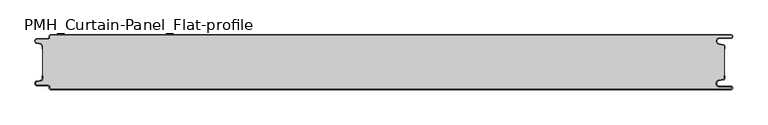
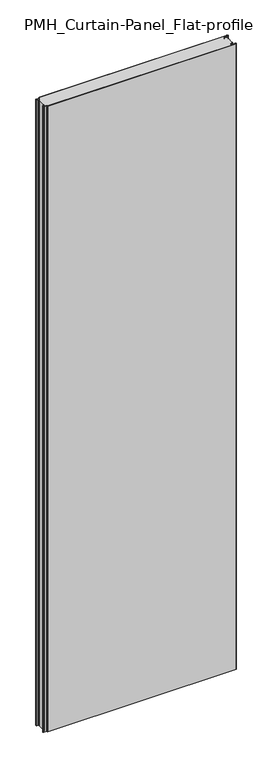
"""IFC4 building model written with IfcOpenShell, lengths in millimetres: plate geometry, PMH_Curtain-Panel_Flat-profile : ACH_PMH_Acoustic-Sectioning-Panel_80M."""

from ifc_helpers import new_model, si_unit, point, frame, frame_2d, origin, origin_with_axes, place, context, project, spatial, polyline, circle_curve, trimmed, segment, composite_curve, outline, extrude, source, transform, mapped, element, save
from ifc_brep_helpers import plane_surface, cylinder_surface, revolved_surface, advanced_brep


def pmh_curtain_panel_flat_profile_eaf717ca(model_context):
    return source(origin(), model_context, "Body", "SolidModel", [
        advanced_brep(
        [(508.1, 0.0, 3500.0), (510.6, 2.5000002, 3500.0), (508.1, 5.0, 3500.0), (491.1, 5.0, 3500.0), (490.405407, 12.939231, 3500.0), (496.8514855, 14.0758491, 3500.0), (499.0, 16.6363492, 3500.0), (499.0, 20.0, 3500.0), (498.2, 20.0, 3500.0), (498.2, 16.6363492, 3500.0), (496.7125669, 14.8636953, 3500.0), (490.2664884, 13.7270771, 3500.0), (491.1, 4.2, 3500.0), (508.1, 4.2, 3500.0), (508.1, 0.8, 3500.0), (-487.4, 0.8, 3500.0), (-488.6, 2.0, 3500.0), (-488.6, 3.4, 3500.0), (-491.4, 6.2, 3500.0), (-506.9, 6.2, 3500.0), (-507.529863, 11.7282362, 3500.0), (-501.370137, 13.150321, 3500.0), (-499.2, 15.878557, 3500.0), (-499.2, 20.0, 3500.0), (-500.0, 20.0, 3500.0), (-500.0, 15.878557, 3500.0), (-501.5500978, 13.9298169, 3500.0), (-507.7098239, 12.507732, 3500.0), (-506.9, 5.4, 3500.0), (-491.4, 5.4, 3500.0), (-489.4, 3.4, 3500.0), (-489.4, 2.0, 3500.0), (-487.4, 0.0, 3500.0), (-487.4, 0.0, 0.0), (-489.4, 2.0, 0.0), (-489.4, 3.4, 0.0), (-491.4, 5.4, 0.0), (-506.9, 5.4, 0.0), (-507.7098239, 12.5077322, 0.0), (-501.5500979, 13.929817, 0.0), (-500.0, 15.878557, 0.0), (-500.0, 20.0, 0.0), (-499.2, 20.0, 0.0), (-499.2, 15.878557, 0.0), (-501.370137, 13.1503208, 0.0), (-507.529863, 11.728236, 0.0), (-506.9, 6.2, 0.0), (-491.4, 6.2, 0.0), (-488.6, 3.4, 0.0), (-488.6, 2.0, 0.0), (-487.4, 0.8, 0.0), (508.1, 0.8, 0.0), (508.1, 4.2, 0.0), (491.1, 4.2, 0.0), (490.2664884, 13.7270771, 0.0), (496.7125669, 14.8636953, 0.0), (498.2, 16.6363492, 0.0), (498.2, 20.0, 0.0), (499.0, 20.0, 0.0), (499.0, 16.6363492, 0.0), (496.8514855, 14.0758491, 0.0), (490.405407, 12.939231, 0.0), (491.1, 5.0, 0.0), (508.1, 5.0, 0.0), (510.6, 2.4999998, 0.0), (508.1, 0.0, 0.0)],
        [
            (0, 1, circle_curve(frame((508.1, 2.5, 3500.0), z_axis=(0.0, 0.0, 1.0), x_axis=(1.0, 0.0, 0.0)), 2.5)),
            (1, 2, circle_curve(frame((508.1, 2.5, 3500.0), z_axis=(0.0, 0.0, 1.0), x_axis=(1.0, 0.0, 0.0)), 2.5)),
            (2, 3),
            (3, 4, circle_curve(frame((491.1, 9.0, 3500.0), z_axis=(0.0, 0.0, -1.0), x_axis=(1.0, 0.0, 0.0)), 4.0)),
            (4, 5),
            (5, 6, circle_curve(frame((496.4, 16.6363492, 3500.0), z_axis=(0.0, 0.0, 1.0), x_axis=(1.0, 0.0, 0.0)), 2.6)),
            (6, 7),
            (7, 8),
            (8, 9),
            (9, 10, circle_curve(frame((496.4, 16.6363492, 3500.0), z_axis=(0.0, 0.0, -1.0), x_axis=(1.0, 0.0, 0.0)), 1.8)),
            (10, 11),
            (11, 12, circle_curve(frame((491.1, 9.0, 3500.0), z_axis=(0.0, 0.0, 1.0), x_axis=(1.0, 0.0, 0.0)), 4.8)),
            (12, 13),
            (13, 14, circle_curve(frame((508.1, 2.5, 3500.0), z_axis=(0.0, 0.0, -1.0), x_axis=(1.0, 0.0, 0.0)), 1.7)),
            (14, 15),
            (15, 16, circle_curve(frame((-487.4, 2.0, 3500.0), z_axis=(0.0, 0.0, -1.0), x_axis=(1.0, 0.0, 0.0)), 1.2)),
            (16, 17),
            (17, 18, circle_curve(frame((-491.4, 3.4, 3500.0), z_axis=(0.0, 0.0, 1.0), x_axis=(1.0, 0.0, 0.0)), 2.8)),
            (18, 19),
            (19, 20, circle_curve(frame((-506.9, 9.0, 3500.0), z_axis=(0.0, 0.0, -1.0), x_axis=(1.0, 0.0, 0.0)), 2.8)),
            (20, 21),
            (21, 22, circle_curve(frame((-502.0, 15.878557, 3500.0), z_axis=(0.0, 0.0, 1.0), x_axis=(1.0, 0.0, 0.0)), 2.8)),
            (22, 23),
            (23, 24),
            (24, 25),
            (25, 26, circle_curve(frame((-502.0, 15.878557, 3500.0), z_axis=(0.0, 0.0, -1.0), x_axis=(1.0, 0.0, 0.0)), 2.0)),
            (26, 27),
            (27, 28, circle_curve(frame((-506.9, 9.0, 3500.0), z_axis=(0.0, 0.0, 1.0), x_axis=(1.0, 0.0, 0.0)), 3.6)),
            (28, 29),
            (29, 30, circle_curve(frame((-491.4, 3.4, 3500.0), z_axis=(0.0, 0.0, -1.0), x_axis=(1.0, 0.0, 0.0)), 2.0)),
            (30, 31),
            (31, 32, circle_curve(frame((-487.4, 2.0, 3500.0), z_axis=(0.0, 0.0, 1.0), x_axis=(1.0, 0.0, 0.0)), 2.0)),
            (32, 0),
            (33, 34, circle_curve(frame((-487.4, 2.0, 0.0), z_axis=(0.0, 0.0, -1.0), x_axis=(1.0, 0.0, 0.0)), 2.0)),
            (34, 35),
            (35, 36, circle_curve(frame((-491.4, 3.4, 0.0), z_axis=(0.0, 0.0, 1.0), x_axis=(1.0, 0.0, 0.0)), 2.0)),
            (36, 37),
            (37, 38, circle_curve(frame((-506.9, 9.0, 0.0), z_axis=(0.0, 0.0, -1.0), x_axis=(1.0, 0.0, 0.0)), 3.6)),
            (38, 39),
            (39, 40, circle_curve(frame((-502.0, 15.878557, 0.0), z_axis=(0.0, 0.0, 1.0), x_axis=(1.0, 0.0, 0.0)), 2.0)),
            (40, 41),
            (41, 42),
            (42, 43),
            (43, 44, circle_curve(frame((-502.0, 15.878557, 0.0), z_axis=(0.0, 0.0, -1.0), x_axis=(1.0, 0.0, 0.0)), 2.8)),
            (44, 45),
            (45, 46, circle_curve(frame((-506.9, 9.0, 0.0), z_axis=(0.0, 0.0, 1.0), x_axis=(1.0, 0.0, 0.0)), 2.8)),
            (46, 47),
            (47, 48, circle_curve(frame((-491.4, 3.4, 0.0), z_axis=(0.0, 0.0, -1.0), x_axis=(1.0, 0.0, 0.0)), 2.8)),
            (48, 49),
            (49, 50, circle_curve(frame((-487.4, 2.0, 0.0), z_axis=(0.0, 0.0, 1.0), x_axis=(1.0, 0.0, 0.0)), 1.2)),
            (50, 51),
            (51, 52, circle_curve(frame((508.1, 2.5, 0.0), z_axis=(0.0, 0.0, 1.0), x_axis=(1.0, 0.0, 0.0)), 1.7)),
            (52, 53),
            (53, 54, circle_curve(frame((491.1, 9.0, 0.0), z_axis=(0.0, 0.0, -1.0), x_axis=(1.0, 0.0, 0.0)), 4.8)),
            (54, 55),
            (55, 56, circle_curve(frame((496.4, 16.6363492, 0.0), z_axis=(0.0, 0.0, 1.0), x_axis=(1.0, 0.0, 0.0)), 1.8)),
            (56, 57),
            (57, 58),
            (58, 59),
            (59, 60, circle_curve(frame((496.4, 16.6363492, 0.0), z_axis=(0.0, 0.0, -1.0), x_axis=(1.0, 0.0, 0.0)), 2.6)),
            (60, 61),
            (61, 62, circle_curve(frame((491.1, 9.0, 0.0), z_axis=(0.0, 0.0, 1.0), x_axis=(1.0, 0.0, 0.0)), 4.0)),
            (62, 63),
            (63, 64, circle_curve(frame((508.1, 2.5, 0.0), z_axis=(0.0, 0.0, -1.0), x_axis=(1.0, 0.0, 0.0)), 2.5)),
            (64, 65, circle_curve(frame((508.1, 2.5, 0.0), z_axis=(0.0, 0.0, -1.0), x_axis=(1.0, 0.0, 0.0)), 2.5)),
            (65, 33),
            (31, 34),
            (33, 32),
            (30, 35),
            (29, 36),
            (28, 37),
            (27, 38),
            (26, 39),
            (25, 40),
            (24, 41),
            (23, 42),
            (22, 43),
            (21, 44),
            (20, 45),
            (19, 46),
            (18, 47),
            (17, 48),
            (16, 49),
            (15, 50),
            (14, 51),
            (13, 52),
            (12, 53),
            (11, 54),
            (10, 55),
            (9, 56),
            (8, 57),
            (7, 58),
            (6, 59),
            (5, 60),
            (4, 61),
            (3, 62),
            (2, 63),
            (0, 65),
        ],
        [
            plane_surface(frame((-500.0, 0.0, 3500.0), z_axis=(0.0, 0.0, 1.0), x_axis=(0.0, -1.0, 0.0))),
            plane_surface(frame((-500.0, 0.0, 0.0), z_axis=(0.0, 0.0, -1.0), x_axis=(0.0, -1.0, 0.0))),
            cylinder_surface(frame((-487.4, 2.0, 3500.0), z_axis=(0.0, 0.0, 1.0), x_axis=(1.0, 0.0, 0.0)), 2.0),
            plane_surface(frame((-489.4, 2.0, 3500.0), z_axis=(-1.0, 0.0, 0.0), x_axis=(0.0, 0.0, -1.0))),
            revolved_surface(polyline([(-489.4, 3.4, 0.0), (-489.4, 3.4, 3500.0)]), (-491.4, 3.4, 3500.0), (0.0, 0.0, -1.0)),
            plane_surface(frame((-491.4, 5.4, 3500.0), z_axis=(0.0, -1.0, 0.0), x_axis=(0.0, 0.0, -1.0))),
            cylinder_surface(frame((-506.9, 9.0, 3500.0), z_axis=(0.0, 0.0, 1.0), x_axis=(1.0, 0.0, 0.0)), 3.6),
            plane_surface(frame((-507.7098239, 12.507732, 3500.0), z_axis=(-0.2249510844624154, 0.9743700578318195, 0.0), x_axis=(0.0, 0.0, -1.0))),
            revolved_surface(polyline([(-500.0, 15.878557, 0.0), (-500.0, 15.878557, 3500.0)]), (-502.0, 15.878557, 3500.0), (0.0, 0.0, -1.0)),
            plane_surface(frame((-500.0, 15.878557, 3500.0), z_axis=(-1.0, 0.0, 0.0), x_axis=(0.0, 0.0, -1.0))),
            plane_surface(frame((-500.0, 20.0, 3500.0), z_axis=(0.0, 1.0, 0.0), x_axis=(0.0, 0.0, -1.0))),
            plane_surface(frame((-499.2, 20.0, 3500.0), z_axis=(1.0, 0.0, 0.0), x_axis=(0.0, 0.0, -1.0))),
            cylinder_surface(frame((-502.0, 15.878557, 3500.0), z_axis=(0.0, 0.0, 1.0), x_axis=(1.0, 0.0, 0.0)), 2.8),
            plane_surface(frame((-501.370137, 13.150321, 3500.0), z_axis=(0.22495108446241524, -0.9743700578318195, 0.0), x_axis=(0.0, 0.0, -1.0))),
            revolved_surface(polyline([(-504.09999999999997, 9.0, 0.0), (-504.09999999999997, 9.0, 3500.0)]), (-506.9, 9.0, 3500.0), (0.0, 0.0, -1.0)),
            plane_surface(frame((-506.9, 6.2, 3500.0), z_axis=(0.0, 1.0, 0.0), x_axis=(0.0, 0.0, -1.0))),
            cylinder_surface(frame((-491.4, 3.4, 3500.0), z_axis=(0.0, 0.0, 1.0), x_axis=(1.0, 0.0, 0.0)), 2.8),
            plane_surface(frame((-488.6, 3.4, 3500.0), z_axis=(1.0, 0.0, 0.0), x_axis=(0.0, 0.0, -1.0))),
            revolved_surface(polyline([(-486.2, 2.0, 0.0), (-486.2, 2.0, 3500.0)]), (-487.4, 2.0, 3500.0), (0.0, 0.0, -1.0)),
            plane_surface(frame((-487.4, 0.8, 3500.0), z_axis=(0.0, 1.0, 0.0), x_axis=(0.0, 0.0, -1.0))),
            revolved_surface(polyline([(509.8, 2.5, 0.0), (509.8, 2.5, 3500.0)]), (508.1, 2.5, 3500.0), (0.0, 0.0, -1.0)),
            plane_surface(frame((508.1, 4.2, 3500.0), z_axis=(0.0, -1.0, 0.0), x_axis=(0.0, 0.0, -1.0))),
            cylinder_surface(frame((491.1, 9.0, 3500.0), z_axis=(0.0, 0.0, 1.0), x_axis=(1.0, 0.0, 0.0)), 4.8),
            plane_surface(frame((490.2664884, 13.7270771, 3500.0), z_axis=(-0.17364826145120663, 0.984807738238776, 0.0), x_axis=(0.0, 0.0, -1.0))),
            revolved_surface(polyline([(498.2, 16.6363492, 0.0), (498.2, 16.6363492, 3500.0)]), (496.4, 16.6363492, 3500.0), (0.0, 0.0, -1.0)),
            plane_surface(frame((498.2, 16.6363492, 3500.0), z_axis=(-1.0, 0.0, 0.0), x_axis=(0.0, 0.0, -1.0))),
            plane_surface(frame((498.2, 20.0, 3500.0), z_axis=(0.0, 1.0, 0.0), x_axis=(0.0, 0.0, -1.0))),
            plane_surface(frame((499.0, 20.0, 3500.0), z_axis=(1.0, 0.0, 0.0), x_axis=(0.0, 0.0, -1.0))),
            cylinder_surface(frame((496.4, 16.6363492, 3500.0), z_axis=(0.0, 0.0, 1.0), x_axis=(1.0, 0.0, 0.0)), 2.6),
            plane_surface(frame((496.8514855, 14.0758491, 3500.0), z_axis=(0.17364826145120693, -0.9848077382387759, 0.0), x_axis=(0.0, 0.0, -1.0))),
            revolved_surface(polyline([(495.1, 9.0, 0.0), (495.1, 9.0, 3500.0)]), (491.1, 9.0, 3500.0), (0.0, 0.0, -1.0)),
            plane_surface(frame((491.1, 5.0, 3500.0), z_axis=(0.0, 1.0, 0.0), x_axis=(0.0, 0.0, -1.0))),
            cylinder_surface(frame((508.1, 2.5, 3500.0), z_axis=(0.0, 0.0, 1.0), x_axis=(1.0, 0.0, 0.0)), 2.5),
            plane_surface(frame((490.5783588, 0.0, 3500.0), z_axis=(0.0, -1.0, 0.0), x_axis=(0.0, 0.0, -1.0))),
        ],
        [
            (0, [[1, 2, 3, 4, 5, 6, 7, 8, 9, 10, 11, 12, 13, 14, 15, 16, 17, 18, 19, 20, 21, 22, 23, 24, 25, 26, 27, 28, 29, 30, 31, 32, 33]]),
            (1, [[34, 35, 36, 37, 38, 39, 40, 41, 42, 43, 44, 45, 46, 47, 48, 49, 50, 51, 52, 53, 54, 55, 56, 57, 58, 59, 60, 61, 62, 63, 64, 65, 66]]),
            (2, [[67, -34, 68, -32]]),
            (3, [[69, -35, -67, -31]]),
            (4, [[70, -36, -69, -30]]),
            (5, [[71, -37, -70, -29]]),
            (6, [[72, -38, -71, -28]]),
            (7, [[73, -39, -72, -27]]),
            (8, [[74, -40, -73, -26]]),
            (9, [[75, -41, -74, -25]]),
            (10, [[76, -42, -75, -24]]),
            (11, [[77, -43, -76, -23]]),
            (12, [[78, -44, -77, -22]]),
            (13, [[79, -45, -78, -21]]),
            (14, [[80, -46, -79, -20]]),
            (15, [[81, -47, -80, -19]]),
            (16, [[82, -48, -81, -18]]),
            (17, [[83, -49, -82, -17]]),
            (18, [[84, -50, -83, -16]]),
            (19, [[85, -51, -84, -15]]),
            (20, [[86, -52, -85, -14]]),
            (21, [[87, -53, -86, -13]]),
            (22, [[88, -54, -87, -12]]),
            (23, [[89, -55, -88, -11]]),
            (24, [[90, -56, -89, -10]]),
            (25, [[91, -57, -90, -9]]),
            (26, [[92, -58, -91, -8]]),
            (27, [[93, -59, -92, -7]]),
            (28, [[94, -60, -93, -6]]),
            (29, [[95, -61, -94, -5]]),
            (30, [[96, -62, -95, -4]]),
            (31, [[97, -63, -96, -3]]),
            (32, [[-2, -1, 98, -65, -64, -97]]),
            (33, [[-68, -66, -98, -33]]),
        ],
    ),
        extrude(outline(composite_curve([segment(trimmed(circle_curve(frame_2d((-502.0, 64.1214426)), 2.8), [point((-499.2, 64.1214426))], [point((-501.370137, 66.8496788))], True, "CARTESIAN"), True, "CONTINUOUS"), segment(polyline([(-501.370137, 66.8496788), (-507.5298631, 68.2717638)]), True, "CONTINUOUS"), segment(trimmed(circle_curve(frame_2d((-506.9, 71.0)), 2.8), [point((-507.5298631, 68.2717638))], [point((-506.9, 73.8))], False, "CARTESIAN"), True, "CONTINUOUS"), segment(polyline([(-506.9, 73.8), (-491.4000001, 73.8)]), True, "CONTINUOUS"), segment(trimmed(circle_curve(frame_2d((-491.4000001, 76.6)), 2.8), [point((-491.4000001, 73.8))], [point((-488.6000001, 76.6))], True, "CARTESIAN"), True, "CONTINUOUS"), segment(polyline([(-488.6000001, 76.6), (-488.6000001, 78.0)]), True, "CONTINUOUS"), segment(trimmed(circle_curve(frame_2d((-487.4000001, 78.0)), 1.2), [point((-488.6000001, 78.0))], [point((-487.4000001, 79.2))], False, "CARTESIAN"), True, "CONTINUOUS"), segment(polyline([(-487.4000001, 79.2), (508.1, 79.2)]), True, "CONTINUOUS"), segment(trimmed(circle_curve(frame_2d((508.1, 77.5)), 1.7), [point((508.1, 79.2))], [point((508.1, 75.8))], False, "CARTESIAN"), True, "CONTINUOUS"), segment(polyline([(508.1, 75.8), (491.1, 75.8)]), True, "CONTINUOUS"), segment(trimmed(circle_curve(frame_2d((491.1, 71.0)), 4.8), [point((491.1, 75.8))], [point((490.2664883, 66.2729229))], True, "CARTESIAN"), True, "CONTINUOUS"), segment(polyline([(490.2664883, 66.2729229), (496.7125668, 65.1363047)]), True, "CONTINUOUS"), segment(trimmed(circle_curve(frame_2d((496.4, 63.3636508)), 1.8), [point((496.7125668, 65.1363047))], [point((498.2, 63.3636508))], False, "CARTESIAN"), True, "CONTINUOUS"), segment(polyline([(498.2, 63.3636508), (498.2, 16.6363492)]), True, "CONTINUOUS"), segment(trimmed(circle_curve(frame_2d((496.4, 16.6363492)), 1.8), [point((498.2, 16.6363492))], [point((496.7125668, 14.8636953))], False, "CARTESIAN"), True, "CONTINUOUS"), segment(polyline([(496.7125668, 14.8636953), (490.2664883, 13.7270771)]), True, "CONTINUOUS"), segment(trimmed(circle_curve(frame_2d((491.1, 9.0)), 4.8), [point((490.2664883, 13.7270771))], [point((491.1, 4.2))], True, "CARTESIAN"), True, "CONTINUOUS"), segment(polyline([(491.1, 4.2), (508.1, 4.2)]), True, "CONTINUOUS"), segment(trimmed(circle_curve(frame_2d((508.1, 2.5)), 1.7), [point((508.1, 4.2))], [point((508.1, 0.8))], False, "CARTESIAN"), True, "CONTINUOUS"), segment(polyline([(508.1, 0.8), (-487.4000001, 0.8)]), True, "CONTINUOUS"), segment(trimmed(circle_curve(frame_2d((-487.4000001, 2.0)), 1.2), [point((-487.4000001, 0.8))], [point((-488.6000001, 2.0))], False, "CARTESIAN"), True, "CONTINUOUS"), segment(polyline([(-488.6000001, 2.0), (-488.6000001, 3.4)]), True, "CONTINUOUS"), segment(trimmed(circle_curve(frame_2d((-491.4000001, 3.4)), 2.8), [point((-488.6000001, 3.4))], [point((-491.4000001, 6.2))], True, "CARTESIAN"), True, "CONTINUOUS"), segment(polyline([(-491.4000001, 6.2), (-506.9, 6.2)]), True, "CONTINUOUS"), segment(trimmed(circle_curve(frame_2d((-506.9, 9.0)), 2.8), [point((-506.9, 6.2))], [point((-507.5298631, 11.7282362))], False, "CARTESIAN"), True, "CONTINUOUS"), segment(polyline([(-507.5298631, 11.7282362), (-501.370137, 13.1503212)]), True, "CONTINUOUS"), segment(trimmed(circle_curve(frame_2d((-502.0, 15.8785573)), 2.8), [point((-501.370137, 13.1503212))], [point((-499.2, 15.8785573))], True, "CARTESIAN"), True, "CONTINUOUS"), segment(polyline([(-499.2, 15.8785573), (-499.2, 64.1214426)]), True, "CONTINUOUS")], self_intersect=False)), origin_with_axes(), (0.0, 0.0, 1.0), 3500.0),
        advanced_brep(
        [(-487.4, 80.0, 3500.0), (-489.4, 78.0, 3500.0), (-489.4, 76.6, 3500.0), (-491.4, 74.6, 3500.0), (-506.9, 74.6, 3500.0), (-507.7098239, 67.4922678, 3500.0), (-501.5500979, 66.070183, 3500.0), (-500.0, 64.121443, 3500.0), (-500.0, 60.0, 3500.0), (-499.2, 60.0, 3500.0), (-499.2, 64.121443, 3500.0), (-501.370137, 66.8496792, 3500.0), (-507.529863, 68.271764, 3500.0), (-506.9, 73.8, 3500.0), (-491.4, 73.8, 3500.0), (-488.6, 76.6, 3500.0), (-488.6, 78.0, 3500.0), (-487.4, 79.2, 3500.0), (508.1, 79.2, 3500.0), (508.1, 75.8, 3500.0), (491.1, 75.8, 3500.0), (490.2664884, 66.2729229, 3500.0), (496.7125669, 65.1363047, 3500.0), (498.2, 63.3636508, 3500.0), (498.2, 60.0, 3500.0), (499.0, 60.0, 3500.0), (499.0, 63.3636508, 3500.0), (496.8514855, 65.9241509, 3500.0), (490.405407, 67.060769, 3500.0), (491.1, 75.0, 3500.0), (508.1, 75.0, 3500.0), (510.6, 77.5000002, 3500.0), (508.1, 80.0, 3500.0), (508.1, 80.0, 0.0), (510.6, 77.4999998, 0.0), (508.1, 75.0, 0.0), (491.1, 75.0, 0.0), (490.405407, 67.060769, 0.0), (496.8514855, 65.9241509, 0.0), (499.0, 63.3636508, 0.0), (499.0, 60.0, 0.0), (498.2, 60.0, 0.0), (498.2, 63.3636508, 0.0), (496.7125669, 65.1363047, 0.0), (490.2664884, 66.2729229, 0.0), (491.1, 75.8, 0.0), (508.1, 75.8, 0.0), (508.1, 79.2, 0.0), (-487.4, 79.2, 0.0), (-488.6, 78.0, 0.0), (-488.6, 76.6, 0.0), (-491.4, 73.8, 0.0), (-506.9, 73.8, 0.0), (-507.529863, 68.2717638, 0.0), (-501.370137, 66.849679, 0.0), (-499.2, 64.121443, 0.0), (-499.2, 60.0, 0.0), (-500.0, 60.0, 0.0), (-500.0, 64.121443, 0.0), (-501.5500978, 66.0701831, 0.0), (-507.7098239, 67.492268, 0.0), (-506.9, 74.6, 0.0), (-491.4, 74.6, 0.0), (-489.4, 76.6, 0.0), (-489.4, 78.0, 0.0), (-487.4, 80.0, 0.0)],
        [
            (0, 1, circle_curve(frame((-487.4, 78.0, 3500.0), z_axis=(0.0, 0.0, 1.0), x_axis=(1.0, 0.0, 0.0)), 2.0)),
            (1, 2),
            (2, 3, circle_curve(frame((-491.4, 76.6, 3500.0), z_axis=(0.0, 0.0, -1.0), x_axis=(1.0, 0.0, 0.0)), 2.0)),
            (3, 4),
            (4, 5, circle_curve(frame((-506.9, 71.0, 3500.0), z_axis=(0.0, 0.0, 1.0), x_axis=(1.0, 0.0, 0.0)), 3.6)),
            (5, 6),
            (6, 7, circle_curve(frame((-502.0, 64.121443, 3500.0), z_axis=(0.0, 0.0, -1.0), x_axis=(1.0, 0.0, 0.0)), 2.0)),
            (7, 8),
            (8, 9),
            (9, 10),
            (10, 11, circle_curve(frame((-502.0, 64.121443, 3500.0), z_axis=(0.0, 0.0, 1.0), x_axis=(1.0, 0.0, 0.0)), 2.8)),
            (11, 12),
            (12, 13, circle_curve(frame((-506.9, 71.0, 3500.0), z_axis=(0.0, 0.0, -1.0), x_axis=(1.0, 0.0, 0.0)), 2.8)),
            (13, 14),
            (14, 15, circle_curve(frame((-491.4, 76.6, 3500.0), z_axis=(0.0, 0.0, 1.0), x_axis=(1.0, 0.0, 0.0)), 2.8)),
            (15, 16),
            (16, 17, circle_curve(frame((-487.4, 78.0, 3500.0), z_axis=(0.0, 0.0, -1.0), x_axis=(1.0, 0.0, 0.0)), 1.2)),
            (17, 18),
            (18, 19, circle_curve(frame((508.1, 77.5, 3500.0), z_axis=(0.0, 0.0, -1.0), x_axis=(1.0, 0.0, 0.0)), 1.7)),
            (19, 20),
            (20, 21, circle_curve(frame((491.1, 71.0, 3500.0), z_axis=(0.0, 0.0, 1.0), x_axis=(1.0, 0.0, 0.0)), 4.8)),
            (21, 22),
            (22, 23, circle_curve(frame((496.4, 63.3636508, 3500.0), z_axis=(0.0, 0.0, -1.0), x_axis=(1.0, 0.0, 0.0)), 1.8)),
            (23, 24),
            (24, 25),
            (25, 26),
            (26, 27, circle_curve(frame((496.4, 63.3636508, 3500.0), z_axis=(0.0, 0.0, 1.0), x_axis=(1.0, 0.0, 0.0)), 2.6)),
            (27, 28),
            (28, 29, circle_curve(frame((491.1, 71.0, 3500.0), z_axis=(0.0, 0.0, -1.0), x_axis=(1.0, 0.0, 0.0)), 4.0)),
            (29, 30),
            (30, 31, circle_curve(frame((508.1, 77.5, 3500.0), z_axis=(0.0, 0.0, 1.0), x_axis=(1.0, 0.0, 0.0)), 2.5)),
            (31, 32, circle_curve(frame((508.1, 77.5, 3500.0), z_axis=(0.0, 0.0, 1.0), x_axis=(1.0, 0.0, 0.0)), 2.5)),
            (32, 0),
            (33, 34, circle_curve(frame((508.1, 77.5, 0.0), z_axis=(0.0, 0.0, -1.0), x_axis=(1.0, 0.0, 0.0)), 2.5)),
            (34, 35, circle_curve(frame((508.1, 77.5, 0.0), z_axis=(0.0, 0.0, -1.0), x_axis=(1.0, 0.0, 0.0)), 2.5)),
            (35, 36),
            (36, 37, circle_curve(frame((491.1, 71.0, 0.0), z_axis=(0.0, 0.0, 1.0), x_axis=(1.0, 0.0, 0.0)), 4.0)),
            (37, 38),
            (38, 39, circle_curve(frame((496.4, 63.3636508, 0.0), z_axis=(0.0, 0.0, -1.0), x_axis=(1.0, 0.0, 0.0)), 2.6)),
            (39, 40),
            (40, 41),
            (41, 42),
            (42, 43, circle_curve(frame((496.4, 63.3636508, 0.0), z_axis=(0.0, 0.0, 1.0), x_axis=(1.0, 0.0, 0.0)), 1.8)),
            (43, 44),
            (44, 45, circle_curve(frame((491.1, 71.0, 0.0), z_axis=(0.0, 0.0, -1.0), x_axis=(1.0, 0.0, 0.0)), 4.8)),
            (45, 46),
            (46, 47, circle_curve(frame((508.1, 77.5, 0.0), z_axis=(0.0, 0.0, 1.0), x_axis=(1.0, 0.0, 0.0)), 1.7)),
            (47, 48),
            (48, 49, circle_curve(frame((-487.4, 78.0, 0.0), z_axis=(0.0, 0.0, 1.0), x_axis=(1.0, 0.0, 0.0)), 1.2)),
            (49, 50),
            (50, 51, circle_curve(frame((-491.4, 76.6, 0.0), z_axis=(0.0, 0.0, -1.0), x_axis=(1.0, 0.0, 0.0)), 2.8)),
            (51, 52),
            (52, 53, circle_curve(frame((-506.9, 71.0, 0.0), z_axis=(0.0, 0.0, 1.0), x_axis=(1.0, 0.0, 0.0)), 2.8)),
            (53, 54),
            (54, 55, circle_curve(frame((-502.0, 64.121443, 0.0), z_axis=(0.0, 0.0, -1.0), x_axis=(1.0, 0.0, 0.0)), 2.8)),
            (55, 56),
            (56, 57),
            (57, 58),
            (58, 59, circle_curve(frame((-502.0, 64.121443, 0.0), z_axis=(0.0, 0.0, 1.0), x_axis=(1.0, 0.0, 0.0)), 2.0)),
            (59, 60),
            (60, 61, circle_curve(frame((-506.9, 71.0, 0.0), z_axis=(0.0, 0.0, -1.0), x_axis=(1.0, 0.0, 0.0)), 3.6)),
            (61, 62),
            (62, 63, circle_curve(frame((-491.4, 76.6, 0.0), z_axis=(0.0, 0.0, 1.0), x_axis=(1.0, 0.0, 0.0)), 2.0)),
            (63, 64),
            (64, 65, circle_curve(frame((-487.4, 78.0, 0.0), z_axis=(0.0, 0.0, -1.0), x_axis=(1.0, 0.0, 0.0)), 2.0)),
            (65, 33),
            (32, 33),
            (65, 0),
            (30, 35),
            (29, 36),
            (28, 37),
            (27, 38),
            (26, 39),
            (25, 40),
            (24, 41),
            (23, 42),
            (22, 43),
            (21, 44),
            (20, 45),
            (19, 46),
            (18, 47),
            (17, 48),
            (16, 49),
            (15, 50),
            (14, 51),
            (13, 52),
            (12, 53),
            (11, 54),
            (10, 55),
            (9, 56),
            (8, 57),
            (7, 58),
            (6, 59),
            (5, 60),
            (4, 61),
            (3, 62),
            (2, 63),
            (1, 64),
        ],
        [
            plane_surface(frame((-500.0, 80.0, 3500.0), z_axis=(0.0, 0.0, 1.0), x_axis=(0.0, -1.0, 0.0))),
            plane_surface(frame((-500.0, 80.0, 0.0), z_axis=(0.0, 0.0, -1.0), x_axis=(0.0, -1.0, 0.0))),
            plane_surface(frame((490.5783588, 80.0, 3500.0), z_axis=(0.0, 1.0, 0.0), x_axis=(0.0, 0.0, -1.0))),
            cylinder_surface(frame((508.1, 77.5, 3500.0), z_axis=(0.0, 0.0, 1.0), x_axis=(1.0, 0.0, 0.0)), 2.5),
            plane_surface(frame((508.1, 75.0, 3500.0), z_axis=(0.0, -1.0, 0.0), x_axis=(0.0, 0.0, -1.0))),
            revolved_surface(polyline([(495.1, 71.0, 0.0), (495.1, 71.0, 3500.0)]), (491.1, 71.0, 3500.0), (0.0, 0.0, -1.0)),
            plane_surface(frame((490.405407, 67.060769, 3500.0), z_axis=(0.17364826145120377, 0.9848077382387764, 0.0), x_axis=(0.0, 0.0, -1.0))),
            cylinder_surface(frame((496.4, 63.3636508, 3500.0), z_axis=(0.0, 0.0, 1.0), x_axis=(1.0, 0.0, 0.0)), 2.6),
            plane_surface(frame((499.0, 63.3636508, 3500.0), z_axis=(1.0, 0.0, 0.0), x_axis=(0.0, 0.0, -1.0))),
            plane_surface(frame((499.0, 60.0, 3500.0), z_axis=(0.0, -1.0, 0.0), x_axis=(0.0, 0.0, -1.0))),
            plane_surface(frame((498.2, 60.0, 3500.0), z_axis=(-1.0, 0.0, 0.0), x_axis=(0.0, 0.0, -1.0))),
            revolved_surface(polyline([(498.2, 63.3636508, 0.0), (498.2, 63.3636508, 3500.0)]), (496.4, 63.3636508, 3500.0), (0.0, 0.0, -1.0)),
            plane_surface(frame((496.7125669, 65.1363047, 3500.0), z_axis=(-0.17364826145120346, -0.9848077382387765, 0.0), x_axis=(0.0, 0.0, -1.0))),
            cylinder_surface(frame((491.1, 71.0, 3500.0), z_axis=(0.0, 0.0, 1.0), x_axis=(1.0, 0.0, 0.0)), 4.8),
            plane_surface(frame((491.1, 75.8, 3500.0), z_axis=(0.0, 1.0, 0.0), x_axis=(0.0, 0.0, -1.0))),
            revolved_surface(polyline([(509.8, 77.5, 0.0), (509.8, 77.5, 3500.0)]), (508.1, 77.5, 3500.0), (0.0, 0.0, -1.0)),
            plane_surface(frame((508.1, 79.2, 3500.0), z_axis=(0.0, -1.0, 0.0), x_axis=(0.0, 0.0, -1.0))),
            revolved_surface(polyline([(-486.2, 78.0, 0.0), (-486.2, 78.0, 3500.0)]), (-487.4, 78.0, 3500.0), (0.0, 0.0, -1.0)),
            plane_surface(frame((-488.6, 78.0, 3500.0), z_axis=(1.0, 0.0, 0.0), x_axis=(0.0, 0.0, -1.0))),
            cylinder_surface(frame((-491.4, 76.6, 3500.0), z_axis=(0.0, 0.0, 1.0), x_axis=(1.0, 0.0, 0.0)), 2.8),
            plane_surface(frame((-491.4, 73.8, 3500.0), z_axis=(0.0, -1.0, 0.0), x_axis=(0.0, 0.0, -1.0))),
            revolved_surface(polyline([(-504.09999999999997, 71.0, 0.0), (-504.09999999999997, 71.0, 3500.0)]), (-506.9, 71.0, 3500.0), (0.0, 0.0, -1.0)),
            plane_surface(frame((-507.529863, 68.271764, 3500.0), z_axis=(0.2249510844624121, 0.9743700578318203, 0.0), x_axis=(0.0, 0.0, -1.0))),
            cylinder_surface(frame((-502.0, 64.121443, 3500.0), z_axis=(0.0, 0.0, 1.0), x_axis=(1.0, 0.0, 0.0)), 2.8),
            plane_surface(frame((-499.2, 64.121443, 3500.0), z_axis=(1.0, 0.0, 0.0), x_axis=(0.0, 0.0, -1.0))),
            plane_surface(frame((-499.2, 60.0, 3500.0), z_axis=(0.0, -1.0, 0.0), x_axis=(0.0, 0.0, -1.0))),
            plane_surface(frame((-500.0, 60.0, 3500.0), z_axis=(-1.0, 0.0, 0.0), x_axis=(0.0, 0.0, -1.0))),
            revolved_surface(polyline([(-500.0, 64.121443, 0.0), (-500.0, 64.121443, 3500.0)]), (-502.0, 64.121443, 3500.0), (0.0, 0.0, -1.0)),
            plane_surface(frame((-501.5500979, 66.070183, 3500.0), z_axis=(-0.22495108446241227, -0.9743700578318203, 0.0), x_axis=(0.0, 0.0, -1.0))),
            cylinder_surface(frame((-506.9, 71.0, 3500.0), z_axis=(0.0, 0.0, 1.0), x_axis=(1.0, 0.0, 0.0)), 3.6),
            plane_surface(frame((-506.9, 74.6, 3500.0), z_axis=(0.0, 1.0, 0.0), x_axis=(0.0, 0.0, -1.0))),
            revolved_surface(polyline([(-489.4, 76.6, 0.0), (-489.4, 76.6, 3500.0)]), (-491.4, 76.6, 3500.0), (0.0, 0.0, -1.0)),
            plane_surface(frame((-489.4, 76.6, 3500.0), z_axis=(-1.0, 0.0, 0.0), x_axis=(0.0, 0.0, -1.0))),
            cylinder_surface(frame((-487.4, 78.0, 3500.0), z_axis=(0.0, 0.0, 1.0), x_axis=(1.0, 0.0, 0.0)), 2.0),
        ],
        [
            (0, [[1, 2, 3, 4, 5, 6, 7, 8, 9, 10, 11, 12, 13, 14, 15, 16, 17, 18, 19, 20, 21, 22, 23, 24, 25, 26, 27, 28, 29, 30, 31, 32, 33]]),
            (1, [[34, 35, 36, 37, 38, 39, 40, 41, 42, 43, 44, 45, 46, 47, 48, 49, 50, 51, 52, 53, 54, 55, 56, 57, 58, 59, 60, 61, 62, 63, 64, 65, 66]]),
            (2, [[67, -66, 68, -33]]),
            (3, [[-32, -31, 69, -35, -34, -67]]),
            (4, [[70, -36, -69, -30]]),
            (5, [[71, -37, -70, -29]]),
            (6, [[72, -38, -71, -28]]),
            (7, [[73, -39, -72, -27]]),
            (8, [[74, -40, -73, -26]]),
            (9, [[75, -41, -74, -25]]),
            (10, [[76, -42, -75, -24]]),
            (11, [[77, -43, -76, -23]]),
            (12, [[78, -44, -77, -22]]),
            (13, [[79, -45, -78, -21]]),
            (14, [[80, -46, -79, -20]]),
            (15, [[81, -47, -80, -19]]),
            (16, [[82, -48, -81, -18]]),
            (17, [[83, -49, -82, -17]]),
            (18, [[84, -50, -83, -16]]),
            (19, [[85, -51, -84, -15]]),
            (20, [[86, -52, -85, -14]]),
            (21, [[87, -53, -86, -13]]),
            (22, [[88, -54, -87, -12]]),
            (23, [[89, -55, -88, -11]]),
            (24, [[90, -56, -89, -10]]),
            (25, [[91, -57, -90, -9]]),
            (26, [[92, -58, -91, -8]]),
            (27, [[93, -59, -92, -7]]),
            (28, [[94, -60, -93, -6]]),
            (29, [[95, -61, -94, -5]]),
            (30, [[96, -62, -95, -4]]),
            (31, [[97, -63, -96, -3]]),
            (32, [[98, -64, -97, -2]]),
            (33, [[-68, -65, -98, -1]]),
        ],
    ),
    ])


if __name__ == "__main__":
    model = new_model("IFC4")
    model_context = context("Model", 3, world=origin())
    ifc_project = project(units=[si_unit("LENGTHUNIT", "METRE", prefix="MILLI")], contexts=[model_context])
    site = spatial("IfcSite", under=ifc_project)
    building = spatial("IfcBuilding", under=site)
    placement = place(None, origin())
    pmh_curtain_panel_flat_profile_shape = pmh_curtain_panel_flat_profile_eaf717ca(model_context)
    element("IfcPlate", 1, ObjectType="PMH_Curtain-Panel_Flat-profile : ACH_PMH_Acoustic-Sectioning-Panel_80M", at=placement, inside=building, context=model_context, shape_type="MappedRepresentation", body=[
        mapped(pmh_curtain_panel_flat_profile_shape, transform((0.0, 0.0, 0.0), x_axis=(1.0, 0.0, 0.0), y_axis=(0.0, 1.0, 0.0), z_axis=(0.0, 0.0, 1.0))),
    ])
    save(model, "model.ifc")
